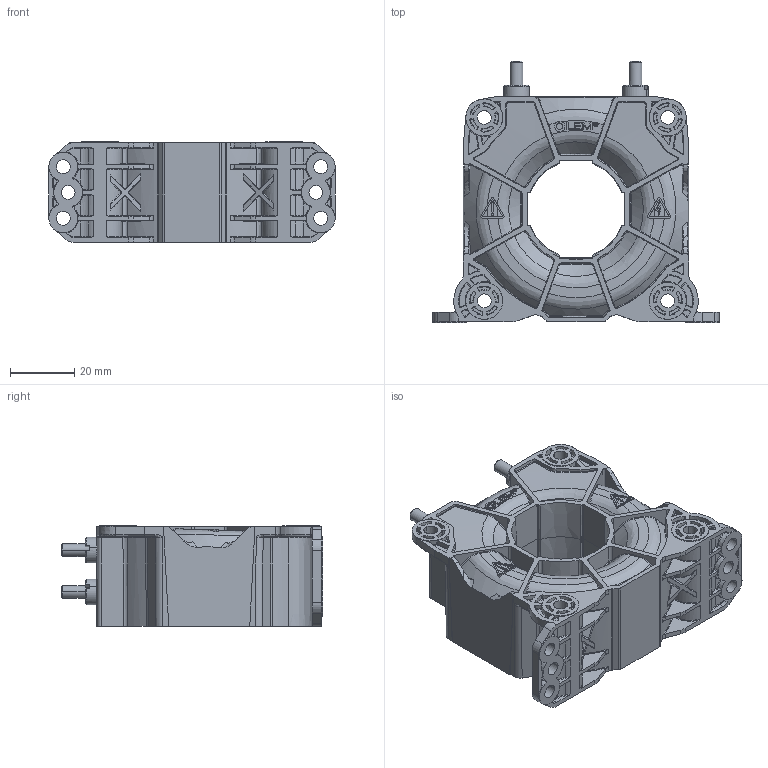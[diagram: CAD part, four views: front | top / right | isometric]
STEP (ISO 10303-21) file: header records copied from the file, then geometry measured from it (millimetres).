
FILE_DESCRIPTION(('Creo Elements/Direct Modeling STEP Export'),'2;1');
FILE_NAME('OUTLINE_I.stp','2015-06-17T 9:30:01',(''),(''),'Creo Elements/Direct Modeling STEP processor for AP214 (Solid Model)','Creo Elements/Direct Modeling 17.0C 05-Feb-2011 (C) Parametric Technology GmbH','');
FILE_SCHEMA(('AUTOMOTIVE_DESIGN { 1 0 10303 214 1 1 1 1 }'));
Products named in the file (1): LF_510_OUTLINE_I
Bounding box: 89 x 81.3 x 31.3 mm (x, y, z)
Volume: 102936.6 mm3; surface area: 25939.6 mm2
Topology: 1 solids, 1 shells, 2088 faces, 5305 edges, 3266 vertices
Faces by surface type: bspline 1064, plane 543, cylinder 273, cone 116, torus 76, extrusion 9, sphere 7
Entity records: 140667 total; most frequent: CARTESIAN_POINT 101110, ORIENTED_EDGE 10592, EDGE_CURVE 5296, DIRECTION 4219, VERTEX_POINT 3266, B_SPLINE_CURVE_WITH_KNOTS 2522, EDGE_LOOP 2166, FACE_OUTER_BOUND 2088
